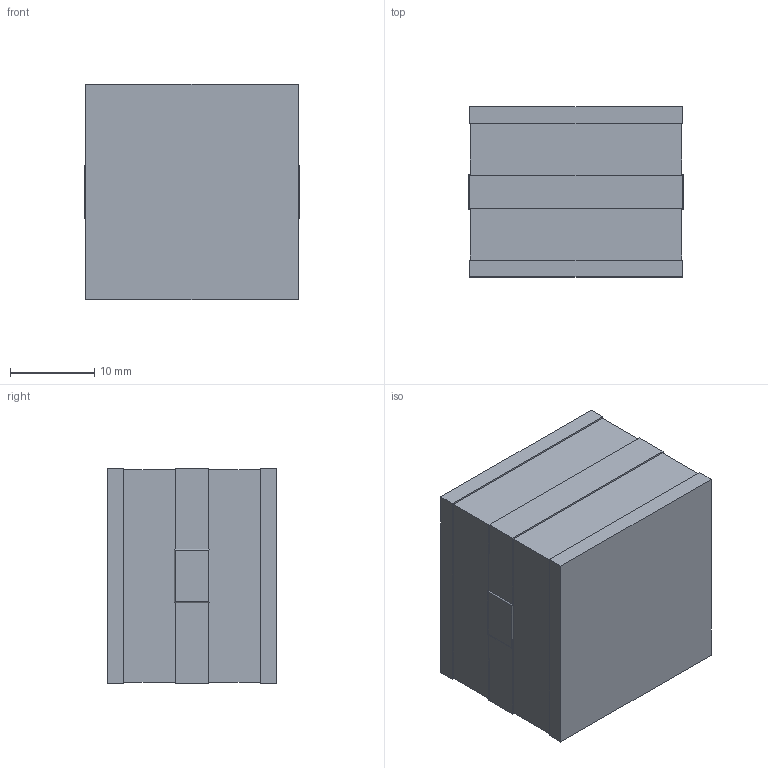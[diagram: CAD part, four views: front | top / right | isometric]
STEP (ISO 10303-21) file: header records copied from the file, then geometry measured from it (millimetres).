
FILE_DESCRIPTION (( 'STEP AP214' ), '1' );
FILE_NAME ('AL_KAE2_W25.20W225.5H20.1T25.20T225.5.STEP', '2018-10-10T20:07:30', ( '' ), ( '' ), 'SwSTEP 2.0', 'SolidWorks 2014', '' );
FILE_SCHEMA (( 'AUTOMOTIVE_DESIGN' ));
Length unit declared in the file: millimetre
Products named in the file (1): AL_KAE2_W25.20W225.5H20.1T25.20T225.5
Bounding box: 25.5 x 20.11 x 25.5 mm (x, y, z)
Volume: 12770.4 mm3; surface area: 3437.3 mm2
Topology: 4 solids, 4 shells, 99 faces, 253 edges, 166 vertices
Faces by surface type: plane 91, cylinder 8
Entity records: 3446 total; most frequent: CARTESIAN_POINT 543, ORIENTED_EDGE 506, DIRECTION 445, EDGE_CURVE 253, VECTOR 245, LINE 245, VERTEX_POINT 166, EDGE_LOOP 103
